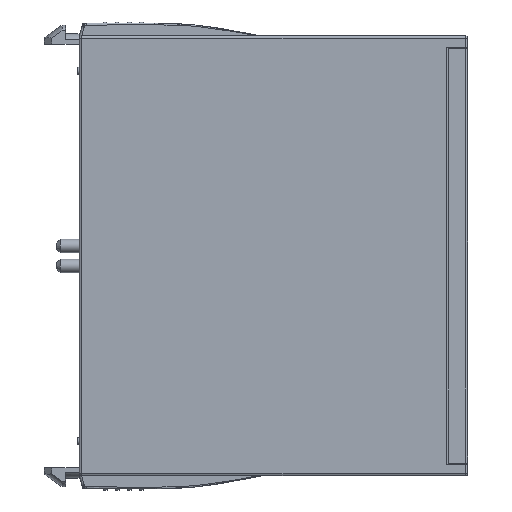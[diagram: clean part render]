
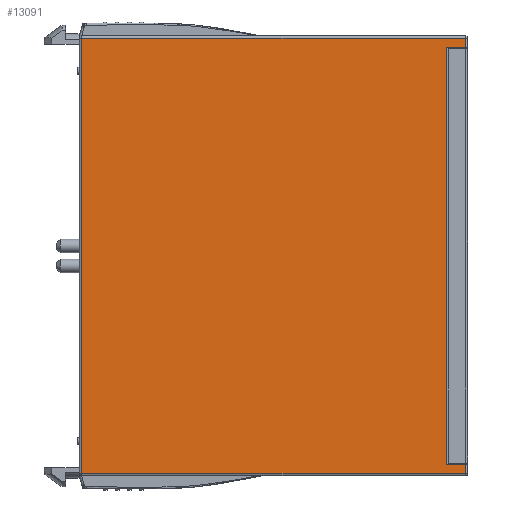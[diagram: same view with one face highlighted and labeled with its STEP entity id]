
A CAD part, top view. The second image highlights one B-rep face of the part: STEP entity #13091.
In plain terms, the highlighted planar face has unit normal (0, 0, 1).
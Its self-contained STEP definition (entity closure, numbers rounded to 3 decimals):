
#1155=LINE('',#20911,#2527);
#1160=LINE('',#20924,#2532);
#1442=LINE('',#21984,#2814);
#1716=LINE('',#23403,#3088);
#1717=LINE('',#23423,#3089);
#1718=LINE('',#23427,#3090);
#1719=LINE('',#23428,#3091);
#1720=LINE('',#23429,#3092);
#2527=VECTOR('',#15642,10.);
#2532=VECTOR('',#15653,10.);
#2814=VECTOR('',#16177,10.);
#3088=VECTOR('',#16573,10.);
#3089=VECTOR('',#16594,10.);
#3090=VECTOR('',#16599,10.);
#3091=VECTOR('',#16600,10.);
#3092=VECTOR('',#16601,10.);
#3652=PLANE('',#13962);
#4181=FACE_OUTER_BOUND('',#4985,.T.);
#4985=EDGE_LOOP('',(#10939,#10940,#10941,#10942,#10943,#10944,#10945,#10946));
#6171=VERTEX_POINT('',#20908);
#6172=VERTEX_POINT('',#20910);
#6177=VERTEX_POINT('',#20922);
#6398=VERTEX_POINT('',#21982);
#6678=VERTEX_POINT('',#23400);
#6679=VERTEX_POINT('',#23402);
#6680=VERTEX_POINT('',#23422);
#6681=VERTEX_POINT('',#23426);
#7548=EDGE_CURVE('',#6172,#6171,#1155,.T.);
#7555=EDGE_CURVE('',#6177,#6171,#1160,.T.);
#7899=EDGE_CURVE('',#6398,#6177,#1442,.F.);
#8244=EDGE_CURVE('',#6678,#6679,#1716,.T.);
#8251=EDGE_CURVE('',#6679,#6680,#1717,.T.);
#8253=EDGE_CURVE('',#6681,#6678,#1718,.T.);
#8254=EDGE_CURVE('',#6172,#6681,#1719,.T.);
#8255=EDGE_CURVE('',#6680,#6398,#1720,.T.);
#10939=ORIENTED_EDGE('',*,*,#8244,.F.);
#10940=ORIENTED_EDGE('',*,*,#8253,.F.);
#10941=ORIENTED_EDGE('',*,*,#8254,.F.);
#10942=ORIENTED_EDGE('',*,*,#7548,.T.);
#10943=ORIENTED_EDGE('',*,*,#7555,.F.);
#10944=ORIENTED_EDGE('',*,*,#7899,.F.);
#10945=ORIENTED_EDGE('',*,*,#8255,.F.);
#10946=ORIENTED_EDGE('',*,*,#8251,.F.);
#13091=ADVANCED_FACE('',(#4181),#3652,.T.);
#13962=AXIS2_PLACEMENT_3D('',#23425,#16597,#16598);
#15642=DIRECTION('',(-1.,0.,0.));
#15653=DIRECTION('',(0.,-1.,0.));
#16177=DIRECTION('',(1.,0.,0.));
#16573=DIRECTION('',(0.,1.,0.));
#16594=DIRECTION('',(1.,0.,0.));
#16597=DIRECTION('center_axis',(0.,0.,
1.));
#16598=DIRECTION('ref_axis',(1.,0.,0.));
#16599=DIRECTION('',(-1.,0.,0.));
#16600=DIRECTION('',(0.,-1.,0.));
#16601=DIRECTION('',(0.,-1.,0.));
#20908=CARTESIAN_POINT('',(26.,-29.385,12.05));
#20910=CARTESIAN_POINT('',(28.7,-29.385,12.05));
#20911=CARTESIAN_POINT('',(12.75,-29.385,12.05));
#20922=CARTESIAN_POINT('',(26.,29.376,12.05));
#20924=CARTESIAN_POINT('',(26.,31.,12.05));
#21982=CARTESIAN_POINT('',(28.7,29.376,12.05));
#21984=CARTESIAN_POINT('',(12.75,29.376,12.05));
#23400=CARTESIAN_POINT('',(-25.45,-30.7,12.05));
#23402=CARTESIAN_POINT('',(-25.45,30.7,12.05));
#23403=CARTESIAN_POINT('',(-25.45,-15.5,12.05));
#23422=CARTESIAN_POINT('',(28.7,30.7,12.05));
#23423=CARTESIAN_POINT('',(-13.,30.7,12.05));
#23425=CARTESIAN_POINT('Origin',(0.,0.,
12.05));
#23426=CARTESIAN_POINT('',(28.7,-30.7,12.05));
#23427=CARTESIAN_POINT('',(13.,-30.7,12.05));
#23428=CARTESIAN_POINT('',(28.7,-15.5,12.05));
#23429=CARTESIAN_POINT('',(28.7,15.5,12.05));
